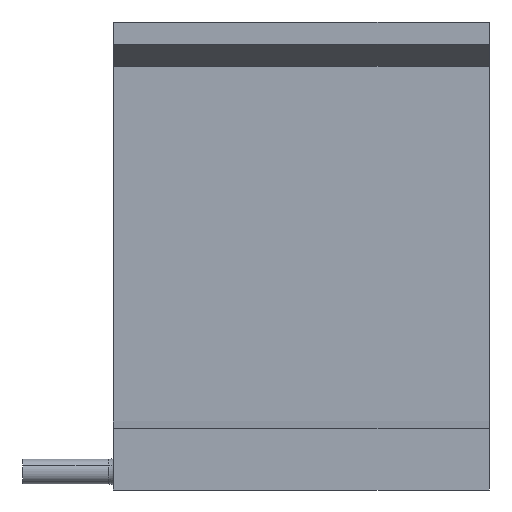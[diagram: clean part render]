
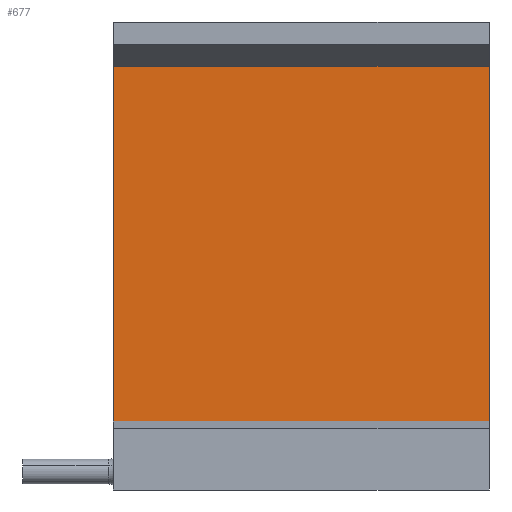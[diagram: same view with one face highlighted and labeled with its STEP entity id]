
A CAD part, left-side view. The second image highlights one B-rep face of the part: STEP entity #677.
In plain terms, the highlighted planar face has unit normal (-1, 0, 0) as drawn and (1, 0, 0) by its records, which use the part's own axes.
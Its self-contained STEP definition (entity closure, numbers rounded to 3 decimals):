
#179 = CARTESIAN_POINT ( 'NONE',  ( 21.35, 17.11, 145. ) ) ;
#202 = ORIENTED_EDGE ( 'NONE', *, *, #3731, .F. ) ;
#551 = DIRECTION ( 'NONE',  ( 0., 0., -1. ) ) ;
#624 = VECTOR ( 'NONE', #551, 1000. ) ;
#629 = CARTESIAN_POINT ( 'NONE',  ( 21.35, 154.11, 145. ) ) ;
#634 = VECTOR ( 'NONE', #2885, 1000. ) ;
#638 = VERTEX_POINT ( 'NONE', #1126 ) ;
#660 = DIRECTION ( 'NONE',  ( -1., 0., 0. ) ) ;
#677 = ADVANCED_FACE ( 'NONE', ( #3251 ), #2685, .F. ) ;
#729 = DIRECTION ( 'NONE',  ( 0., 1., 0. ) ) ;
#910 = LINE ( 'NONE', #1439, #1420 ) ;
#1126 = CARTESIAN_POINT ( 'NONE',  ( 21.35, 17.11, 145. ) ) ;
#1218 = VERTEX_POINT ( 'NONE', #2607 ) ;
#1232 = EDGE_CURVE ( 'NONE', #638, #1770, #3153, .T. ) ;
#1420 = VECTOR ( 'NONE', #3733, 1000. ) ;
#1439 = CARTESIAN_POINT ( 'NONE',  ( 21.35, 154.11, 145. ) ) ;
#1700 = CARTESIAN_POINT ( 'NONE',  ( 21.35, 17.11, 0. ) ) ;
#1770 = VERTEX_POINT ( 'NONE', #3234 ) ;
#1771 = ORIENTED_EDGE ( 'NONE', *, *, #1232, .T. ) ;
#1790 = CARTESIAN_POINT ( 'NONE',  ( 21.35, 17.11, 145. ) ) ;
#1843 = EDGE_CURVE ( 'NONE', #638, #3294, #3039, .T. ) ;
#1981 = LINE ( 'NONE', #1700, #634 ) ;
#2049 = VECTOR ( 'NONE', #729, 1000. ) ;
#2092 = DIRECTION ( 'NONE',  ( 0., 0., 1. ) ) ;
#2607 = CARTESIAN_POINT ( 'NONE',  ( 21.35, 154.11, 0. ) ) ;
#2685 = PLANE ( 'NONE',  #2777 ) ;
#2777 = AXIS2_PLACEMENT_3D ( 'NONE', #1790, #660, #2092 ) ;
#2885 = DIRECTION ( 'NONE',  ( 0., 1., 0. ) ) ;
#3039 = LINE ( 'NONE', #179, #2049 ) ;
#3153 = LINE ( 'NONE', #3750, #624 ) ;
#3224 = ORIENTED_EDGE ( 'NONE', *, *, #1843, .F. ) ;
#3234 = CARTESIAN_POINT ( 'NONE',  ( 21.35, 17.11, 0. ) ) ;
#3251 = FACE_OUTER_BOUND ( 'NONE', #3537, .T. ) ;
#3294 = VERTEX_POINT ( 'NONE', #629 ) ;
#3459 = ORIENTED_EDGE ( 'NONE', *, *, #3725, .T. ) ;
#3537 = EDGE_LOOP ( 'NONE', ( #3459, #202, #3224, #1771 ) ) ;
#3725 = EDGE_CURVE ( 'NONE', #1770, #1218, #1981, .T. ) ;
#3731 = EDGE_CURVE ( 'NONE', #3294, #1218, #910, .T. ) ;
#3733 = DIRECTION ( 'NONE',  ( 0., 0., -1. ) ) ;
#3750 = CARTESIAN_POINT ( 'NONE',  ( 21.35, 17.11, 145. ) ) ;
